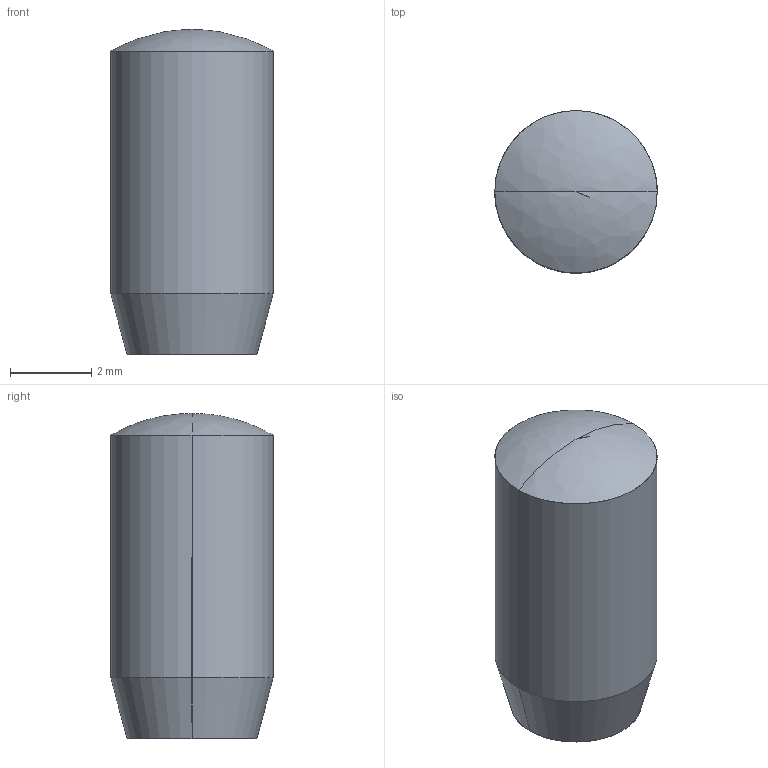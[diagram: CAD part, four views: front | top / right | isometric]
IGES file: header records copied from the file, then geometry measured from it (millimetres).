
Global section: file name: E:\UnigraphicsGraphicData\MISUMI_PRESS-PARTS\IGES\3d_ms4-8_00422_r00.igs; native system: NX V5.0; preprocessor: UGS NX IGES V5.0; author: MISUMI; date: 20110105.161512; units: millimetre
Bounding box: 4 x 4 x 8 mm (x, y, z)
Surface area: 114 mm2 (no closed solid volume)
Topology: 0 solids, 0 shells, 7 faces, 32 edges, 30 vertices
Faces by surface type: bspline 7
